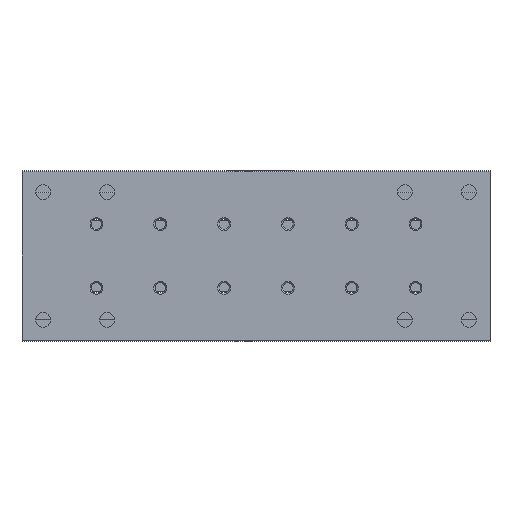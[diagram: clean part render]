
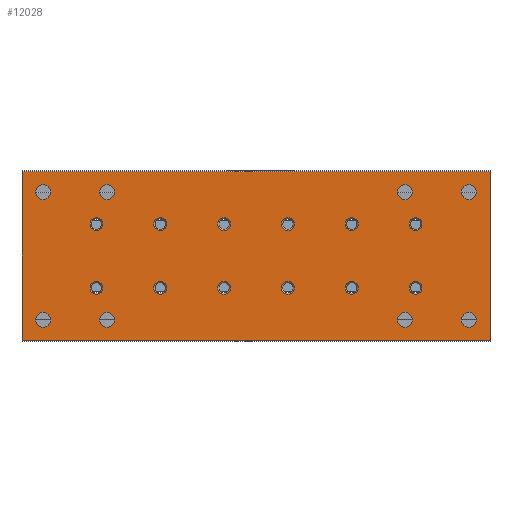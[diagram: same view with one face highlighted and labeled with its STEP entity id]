
A CAD part, front view. The second image highlights one B-rep face of the part: STEP entity #12028.
In plain terms, the highlighted planar face has unit normal (0, -1, 0).
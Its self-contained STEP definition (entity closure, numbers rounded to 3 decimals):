
#553=LINE('',#18490,#1595);
#575=LINE('',#18534,#1617);
#577=LINE('',#18578,#1619);
#578=LINE('',#18580,#1620);
#1595=VECTOR('',#14380,1000.);
#1617=VECTOR('',#14408,1000.);
#1619=VECTOR('',#14452,1000.);
#1620=VECTOR('',#14453,1000.);
#2738=ORIENTED_EDGE('',*,*,#6333,.F.);
#2739=ORIENTED_EDGE('',*,*,#6334,.F.);
#2740=ORIENTED_EDGE('',*,*,#6335,.F.);
#2741=ORIENTED_EDGE('',*,*,#6336,.F.);
#2742=ORIENTED_EDGE('',*,*,#6337,.F.);
#2743=ORIENTED_EDGE('',*,*,#6338,.F.);
#2744=ORIENTED_EDGE('',*,*,#6339,.F.);
#2745=ORIENTED_EDGE('',*,*,#6340,.F.);
#2746=ORIENTED_EDGE('',*,*,#6341,.F.);
#2747=ORIENTED_EDGE('',*,*,#6342,.F.);
#2748=ORIENTED_EDGE('',*,*,#6343,.F.);
#2749=ORIENTED_EDGE('',*,*,#6344,.F.);
#2750=ORIENTED_EDGE('',*,*,#6345,.F.);
#2751=ORIENTED_EDGE('',*,*,#6346,.F.);
#2752=ORIENTED_EDGE('',*,*,#6347,.F.);
#2753=ORIENTED_EDGE('',*,*,#6348,.F.);
#2754=ORIENTED_EDGE('',*,*,#6349,.T.);
#2755=ORIENTED_EDGE('',*,*,#6350,.F.);
#2756=ORIENTED_EDGE('',*,*,#6351,.F.);
#2757=ORIENTED_EDGE('',*,*,#6352,.F.);
#2758=ORIENTED_EDGE('',*,*,#6309,.T.);
#2759=ORIENTED_EDGE('',*,*,#6353,.F.);
#2760=ORIENTED_EDGE('',*,*,#6354,.F.);
#2761=ORIENTED_EDGE('',*,*,#6331,.T.);
#6309=EDGE_CURVE('',#8097,#8096,#553,.T.);
#6331=EDGE_CURVE('',#8116,#8097,#575,.T.);
#6333=EDGE_CURVE('',#8117,#8117,#9216,.T.);
#6334=EDGE_CURVE('',#8118,#8118,#9217,.T.);
#6335=EDGE_CURVE('',#8119,#8119,#9218,.T.);
#6336=EDGE_CURVE('',#8120,#8120,#9219,.T.);
#6337=EDGE_CURVE('',#8121,#8121,#9220,.T.);
#6338=EDGE_CURVE('',#8122,#8122,#9221,.T.);
#6339=EDGE_CURVE('',#8123,#8123,#9222,.T.);
#6340=EDGE_CURVE('',#8124,#8124,#9223,.T.);
#6341=EDGE_CURVE('',#8125,#8125,#9224,.T.);
#6342=EDGE_CURVE('',#8126,#8126,#9225,.T.);
#6343=EDGE_CURVE('',#8127,#8127,#9226,.T.);
#6344=EDGE_CURVE('',#8128,#8128,#9227,.T.);
#6345=EDGE_CURVE('',#8129,#8129,#9228,.T.);
#6346=EDGE_CURVE('',#8130,#8130,#9229,.T.);
#6347=EDGE_CURVE('',#8131,#8131,#9230,.T.);
#6348=EDGE_CURVE('',#8132,#8132,#9231,.T.);
#6349=EDGE_CURVE('',#8133,#8133,#9232,.T.);
#6350=EDGE_CURVE('',#8134,#8134,#9233,.T.);
#6351=EDGE_CURVE('',#8135,#8135,#9234,.T.);
#6352=EDGE_CURVE('',#8136,#8136,#9235,.T.);
#6353=EDGE_CURVE('',#8137,#8096,#577,.T.);
#6354=EDGE_CURVE('',#8116,#8137,#578,.T.);
#8096=VERTEX_POINT('',#18489);
#8097=VERTEX_POINT('',#18491);
#8116=VERTEX_POINT('',#18535);
#8117=VERTEX_POINT('',#18539);
#8118=VERTEX_POINT('',#18541);
#8119=VERTEX_POINT('',#18543);
#8120=VERTEX_POINT('',#18545);
#8121=VERTEX_POINT('',#18547);
#8122=VERTEX_POINT('',#18549);
#8123=VERTEX_POINT('',#18551);
#8124=VERTEX_POINT('',#18553);
#8125=VERTEX_POINT('',#18555);
#8126=VERTEX_POINT('',#18557);
#8127=VERTEX_POINT('',#18559);
#8128=VERTEX_POINT('',#18561);
#8129=VERTEX_POINT('',#18563);
#8130=VERTEX_POINT('',#18565);
#8131=VERTEX_POINT('',#18567);
#8132=VERTEX_POINT('',#18569);
#8133=VERTEX_POINT('',#18571);
#8134=VERTEX_POINT('',#18573);
#8135=VERTEX_POINT('',#18575);
#8136=VERTEX_POINT('',#18577);
#8137=VERTEX_POINT('',#18579);
#9216=CIRCLE('',#12768,1.5);
#9217=CIRCLE('',#12769,1.5);
#9218=CIRCLE('',#12770,1.5);
#9219=CIRCLE('',#12771,1.5);
#9220=CIRCLE('',#12772,1.5);
#9221=CIRCLE('',#12773,1.5);
#9222=CIRCLE('',#12774,1.5);
#9223=CIRCLE('',#12775,1.5);
#9224=CIRCLE('',#12776,1.5);
#9225=CIRCLE('',#12777,1.5);
#9226=CIRCLE('',#12778,1.5);
#9227=CIRCLE('',#12779,1.5);
#9228=CIRCLE('',#12780,1.75);
#9229=CIRCLE('',#12781,1.75);
#9230=CIRCLE('',#12782,1.75);
#9231=CIRCLE('',#12783,1.75);
#9232=CIRCLE('',#12784,1.75);
#9233=CIRCLE('',#12785,1.75);
#9234=CIRCLE('',#12786,1.75);
#9235=CIRCLE('',#12787,1.75);
#9979=EDGE_LOOP('',(#2738));
#9980=EDGE_LOOP('',(#2739));
#9981=EDGE_LOOP('',(#2740));
#9982=EDGE_LOOP('',(#2741));
#9983=EDGE_LOOP('',(#2742));
#9984=EDGE_LOOP('',(#2743));
#9985=EDGE_LOOP('',(#2744));
#9986=EDGE_LOOP('',(#2745));
#9987=EDGE_LOOP('',(#2746));
#9988=EDGE_LOOP('',(#2747));
#9989=EDGE_LOOP('',(#2748));
#9990=EDGE_LOOP('',(#2749));
#9991=EDGE_LOOP('',(#2750));
#9992=EDGE_LOOP('',(#2751));
#9993=EDGE_LOOP('',(#2752));
#9994=EDGE_LOOP('',(#2753));
#9995=EDGE_LOOP('',(#2754));
#9996=EDGE_LOOP('',(#2755));
#9997=EDGE_LOOP('',(#2756));
#9998=EDGE_LOOP('',(#2757));
#9999=EDGE_LOOP('',(#2758,#2759,#2760,#2761));
#10847=FACE_BOUND('',#9979,.T.);
#10848=FACE_BOUND('',#9980,.T.);
#10849=FACE_BOUND('',#9981,.T.);
#10850=FACE_BOUND('',#9982,.T.);
#10851=FACE_BOUND('',#9983,.T.);
#10852=FACE_BOUND('',#9984,.T.);
#10853=FACE_BOUND('',#9985,.T.);
#10854=FACE_BOUND('',#9986,.T.);
#10855=FACE_BOUND('',#9987,.T.);
#10856=FACE_BOUND('',#9988,.T.);
#10857=FACE_BOUND('',#9989,.T.);
#10858=FACE_BOUND('',#9990,.T.);
#10859=FACE_BOUND('',#9991,.T.);
#10860=FACE_BOUND('',#9992,.T.);
#10861=FACE_BOUND('',#9993,.T.);
#10862=FACE_BOUND('',#9994,.T.);
#10863=FACE_BOUND('',#9995,.T.);
#10864=FACE_BOUND('',#9996,.T.);
#10865=FACE_BOUND('',#9997,.T.);
#10866=FACE_BOUND('',#9998,.T.);
#10867=FACE_BOUND('',#9999,.T.);
#11715=PLANE('',#12767);
#12028=ADVANCED_FACE('',(#10847,#10848,#10849,#10850,#10851,#10852,#10853,
#10854,#10855,#10856,#10857,#10858,#10859,#10860,#10861,#10862,#10863,#10864,
#10865,#10866,#10867),#11715,.F.);
#12767=AXIS2_PLACEMENT_3D('',#18537,#14410,#14411);
#12768=AXIS2_PLACEMENT_3D('',#18538,#14412,#14413);
#12769=AXIS2_PLACEMENT_3D('',#18540,#14414,#14415);
#12770=AXIS2_PLACEMENT_3D('',#18542,#14416,#14417);
#12771=AXIS2_PLACEMENT_3D('',#18544,#14418,#14419);
#12772=AXIS2_PLACEMENT_3D('',#18546,#14420,#14421);
#12773=AXIS2_PLACEMENT_3D('',#18548,#14422,#14423);
#12774=AXIS2_PLACEMENT_3D('',#18550,#14424,#14425);
#12775=AXIS2_PLACEMENT_3D('',#18552,#14426,#14427);
#12776=AXIS2_PLACEMENT_3D('',#18554,#14428,#14429);
#12777=AXIS2_PLACEMENT_3D('',#18556,#14430,#14431);
#12778=AXIS2_PLACEMENT_3D('',#18558,#14432,#14433);
#12779=AXIS2_PLACEMENT_3D('',#18560,#14434,#14435);
#12780=AXIS2_PLACEMENT_3D('',#18562,#14436,#14437);
#12781=AXIS2_PLACEMENT_3D('',#18564,#14438,#14439);
#12782=AXIS2_PLACEMENT_3D('',#18566,#14440,#14441);
#12783=AXIS2_PLACEMENT_3D('',#18568,#14442,#14443);
#12784=AXIS2_PLACEMENT_3D('',#18570,#14444,#14445);
#12785=AXIS2_PLACEMENT_3D('',#18572,#14446,#14447);
#12786=AXIS2_PLACEMENT_3D('',#18574,#14448,#14449);
#12787=AXIS2_PLACEMENT_3D('',#18576,#14450,#14451);
#14380=DIRECTION('',(0.,0.,-1.));
#14408=DIRECTION('',(-1.,0.,0.));
#14410=DIRECTION('',(0.,1.,0.));
#14411=DIRECTION('',(0.,0.,1.));
#14412=DIRECTION('',(0.,-1.,0.));
#14413=DIRECTION('',(0.,0.,-1.));
#14414=DIRECTION('',(0.,-1.,0.));
#14415=DIRECTION('',(0.,0.,-1.));
#14416=DIRECTION('',(0.,-1.,0.));
#14417=DIRECTION('',(0.,0.,-1.));
#14418=DIRECTION('',(0.,-1.,0.));
#14419=DIRECTION('',(0.,0.,-1.));
#14420=DIRECTION('',(0.,-1.,0.));
#14421=DIRECTION('',(0.,0.,-1.));
#14422=DIRECTION('',(0.,-1.,0.));
#14423=DIRECTION('',(0.,0.,-1.));
#14424=DIRECTION('',(0.,-1.,0.));
#14425=DIRECTION('',(0.,0.,-1.));
#14426=DIRECTION('',(0.,-1.,0.));
#14427=DIRECTION('',(0.,0.,-1.));
#14428=DIRECTION('',(0.,-1.,0.));
#14429=DIRECTION('',(0.,0.,-1.));
#14430=DIRECTION('',(0.,-1.,0.));
#14431=DIRECTION('',(0.,0.,-1.));
#14432=DIRECTION('',(0.,-1.,0.));
#14433=DIRECTION('',(0.,0.,-1.));
#14434=DIRECTION('',(0.,-1.,0.));
#14435=DIRECTION('',(0.,0.,-1.));
#14436=DIRECTION('',(0.,-1.,0.));
#14437=DIRECTION('',(0.,0.,-1.));
#14438=DIRECTION('',(0.,-1.,0.));
#14439=DIRECTION('',(0.,0.,-1.));
#14440=DIRECTION('',(0.,-1.,0.));
#14441=DIRECTION('',(0.,0.,-1.));
#14442=DIRECTION('',(0.,-1.,0.));
#14443=DIRECTION('',(0.,0.,-1.));
#14444=DIRECTION('',(0.,1.,0.));
#14445=DIRECTION('',(0.,0.,1.));
#14446=DIRECTION('',(0.,-1.,0.));
#14447=DIRECTION('',(0.,0.,-1.));
#14448=DIRECTION('',(0.,-1.,0.));
#14449=DIRECTION('',(0.,0.,-1.));
#14450=DIRECTION('',(0.,-1.,0.));
#14451=DIRECTION('',(0.,0.,-1.));
#14452=DIRECTION('',(-1.,0.,0.));
#14453=DIRECTION('',(0.,0.,-1.));
#18489=CARTESIAN_POINT('',(0.,0.,-19.85));
#18490=CARTESIAN_POINT('',(0.,0.,19.85));
#18491=CARTESIAN_POINT('',(0.,0.,19.85));
#18534=CARTESIAN_POINT('',(110.,0.,19.85));
#18535=CARTESIAN_POINT('',(110.,0.,19.85));
#18537=CARTESIAN_POINT('',(110.,0.,19.85));
#18538=CARTESIAN_POINT('',(92.5,0.,-7.5));
#18539=CARTESIAN_POINT('',(92.5,0.,-9.));
#18540=CARTESIAN_POINT('',(92.5,0.,7.5));
#18541=CARTESIAN_POINT('',(92.5,0.,6.));
#18542=CARTESIAN_POINT('',(17.5,0.,-7.5));
#18543=CARTESIAN_POINT('',(17.5,0.,-9.));
#18544=CARTESIAN_POINT('',(17.5,0.,7.5));
#18545=CARTESIAN_POINT('',(17.5,0.,6.));
#18546=CARTESIAN_POINT('',(32.5,0.,-7.5));
#18547=CARTESIAN_POINT('',(32.5,0.,-9.));
#18548=CARTESIAN_POINT('',(32.5,0.,7.5));
#18549=CARTESIAN_POINT('',(32.5,0.,6.));
#18550=CARTESIAN_POINT('',(77.5,0.,-7.5));
#18551=CARTESIAN_POINT('',(77.5,0.,-9.));
#18552=CARTESIAN_POINT('',(77.5,0.,7.5));
#18553=CARTESIAN_POINT('',(77.5,0.,6.));
#18554=CARTESIAN_POINT('',(62.5,0.,-7.5));
#18555=CARTESIAN_POINT('',(62.5,0.,-9.));
#18556=CARTESIAN_POINT('',(62.5,0.,7.5));
#18557=CARTESIAN_POINT('',(62.5,0.,6.));
#18558=CARTESIAN_POINT('',(47.5,0.,-7.5));
#18559=CARTESIAN_POINT('',(47.5,0.,-9.));
#18560=CARTESIAN_POINT('',(47.5,0.,7.5));
#18561=CARTESIAN_POINT('',(47.5,0.,6.));
#18562=CARTESIAN_POINT('',(90.,0.,15.));
#18563=CARTESIAN_POINT('',(90.,0.,13.25));
#18564=CARTESIAN_POINT('',(90.,0.,-15.));
#18565=CARTESIAN_POINT('',(90.,0.,-16.75));
#18566=CARTESIAN_POINT('',(20.,0.,15.));
#18567=CARTESIAN_POINT('',(20.,0.,13.25));
#18568=CARTESIAN_POINT('',(20.,0.,-15.));
#18569=CARTESIAN_POINT('',(20.,0.,-16.75));
#18570=CARTESIAN_POINT('',(105.,0.,15.));
#18571=CARTESIAN_POINT('',(105.,0.,16.75));
#18572=CARTESIAN_POINT('',(105.,0.,-15.));
#18573=CARTESIAN_POINT('',(105.,0.,-16.75));
#18574=CARTESIAN_POINT('',(5.,0.,-15.));
#18575=CARTESIAN_POINT('',(5.,0.,-16.75));
#18576=CARTESIAN_POINT('',(5.,0.,15.));
#18577=CARTESIAN_POINT('',(5.,0.,13.25));
#18578=CARTESIAN_POINT('',(110.,0.,-19.85));
#18579=CARTESIAN_POINT('',(110.,0.,-19.85));
#18580=CARTESIAN_POINT('',(110.,0.,19.85));
